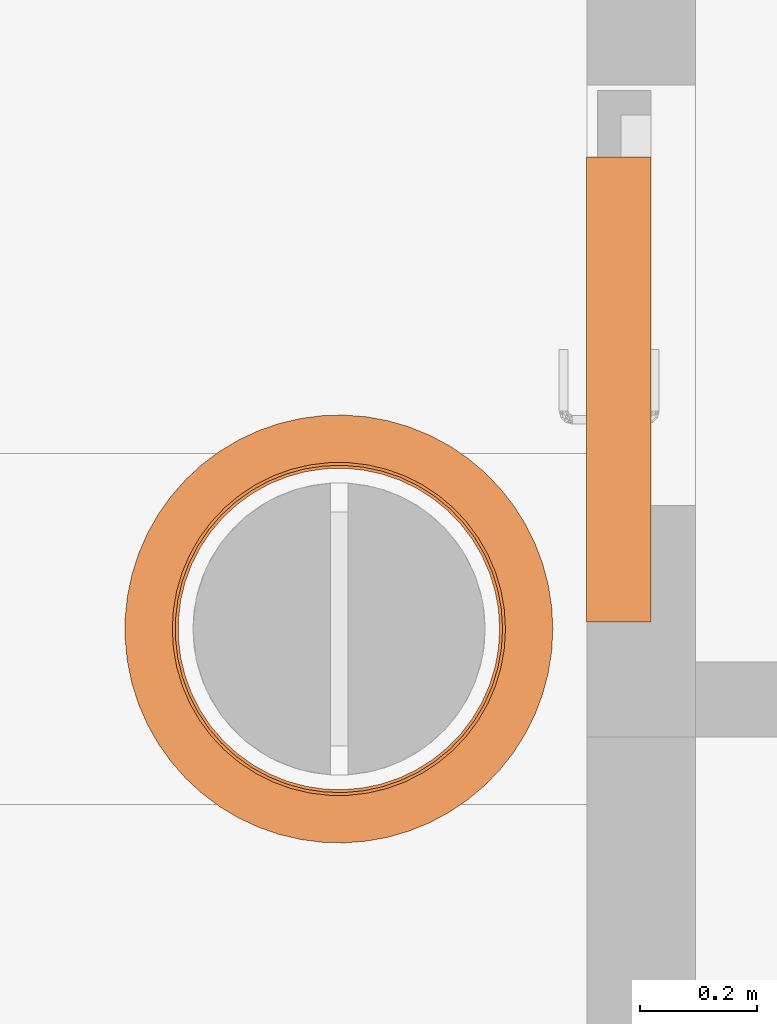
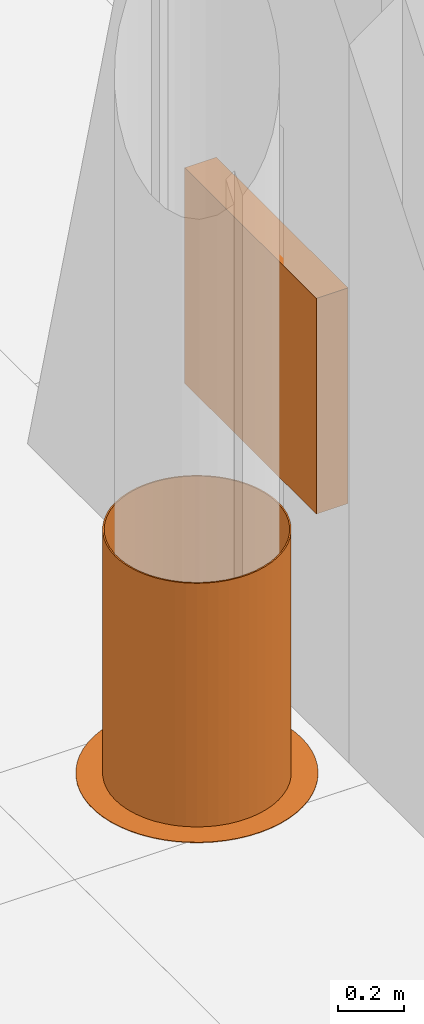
# One storey, part 9 of 10: 2 proxies.
"""IFC2X3 building model written with IfcOpenShell, lengths in millimetres."""

from ifc_helpers import new_model, entity, si_unit, converted_unit, derived_unit, direction, frame, frame_2d, origin, origin_with_axes, origin_2d_with_axis, place, context, subcontext, project, spatial, rectangle, hollow_circle, extrude, source, transform, mapped, material, type_object, element, save


model = new_model("IFC2X3")

# Units and contexts
model_context = context("Model", 3, precision=0.01, world=origin(), true_north=direction((6.12303176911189e-17, 1.0)))
plan_context = context("Plan", 3, precision=1e-05, world=origin_with_axes())
body_context = subcontext(model_context, "Body", "Model", "MODEL_VIEW")
ifc_project = project(units=[converted_unit("PLANEANGLEUNIT", "DEGREE", entity("IfcPositiveLengthMeasure", 0.0174532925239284), si_unit("PLANEANGLEUNIT", "RADIAN"), dimensions=[0, 0, 0, 0, 0, 0, 0]), si_unit("AREAUNIT", "SQUARE_METRE"), si_unit("LENGTHUNIT", "METRE", prefix="MILLI"), si_unit("MASSUNIT", "GRAM", prefix="KILO"), si_unit("POWERUNIT", "WATT"), si_unit("PRESSUREUNIT", "PASCAL"), si_unit("FORCEUNIT", "NEWTON", prefix="KILO"), si_unit("ELECTRICVOLTAGEUNIT", "VOLT"), si_unit("ELECTRICCURRENTUNIT", "AMPERE"), si_unit("THERMODYNAMICTEMPERATUREUNIT", "DEGREE_CELSIUS"), si_unit("TIMEUNIT", "SECOND"), si_unit("VOLUMEUNIT", "CUBIC_METRE"), derived_unit("LINEARVELOCITYUNIT", [(si_unit("LENGTHUNIT", "METRE"), 1), (si_unit("TIMEUNIT", "SECOND"), -1)]), derived_unit("VOLUMETRICFLOWRATEUNIT", [(si_unit("VOLUMEUNIT", "CUBIC_METRE"), 1), (si_unit("TIMEUNIT", "SECOND"), -1)]), derived_unit("THERMALTRANSMITTANCEUNIT", [(si_unit("POWERUNIT", "WATT"), 1), (si_unit("THERMODYNAMICTEMPERATUREUNIT", "KELVIN"), -1), (si_unit("AREAUNIT", "SQUARE_METRE"), -1)]), derived_unit("SOUNDPRESSUREUNIT", [(si_unit("PRESSUREUNIT", "PASCAL"), 1)])], contexts=[model_context, plan_context])

# Site, building, storey
site_placement = place(None, frame((2314154.5009392, 1029894.10887124, 0.0), z_axis=(0.0, 0.0, 1.0), x_axis=(1.0, 0.0, 0.0)))
site = spatial("IfcSite", under=ifc_project, at=site_placement, Name="Default", CompositionType="ELEMENT")
building_placement = place(site_placement, origin_with_axes())
building = spatial("IfcBuilding", under=site, at=building_placement, CompositionType="ELEMENT")
storey_placement = place(building_placement, frame((0.0, 0.0, 9320.0), z_axis=(0.0, 0.0, 1.0), x_axis=(1.0, 0.0, 0.0)))
storey = spatial("IfcBuildingStorey", under=building, at=storey_placement, Name="H01 Hovedetasje", CompositionType="ELEMENT", Elevation=9320.0)

# Proxies
ifc_material_1 = material(Name="<Unnamed>")
building_element_proxy_type_1 = type_object("IfcBuildingElementProxyType", Name="Værnes_Søylebeskyttelse_E1_rustfritt stål:Værnes_Søylebeskyttelse_E1_rustfritt stål", PredefinedType="NOTDEFINED", material=ifc_material_1)
shared_shape_1 = source(origin(), body_context, "Body", "SweptSolid", [
    extrude(hollow_circle(Radius=366.0, WallThickness=91.0000000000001, at=frame_2d((7.2779192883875e-16, -5.91289314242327e-13), x_axis=(1.0, 0.0))), origin(), (0.0, 0.0, 1.0), 2.0),
    extrude(hollow_circle(Radius=285.0, WallThickness=5.0, at=frame_2d((-6.34492458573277e-15, -4.60430203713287e-13), x_axis=(1.0, 0.0))), origin(), (0.0, 0.0, 1.0), 900.0),
])
proxy_1_placement = place(storey_placement, frame((101360.017375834, -39949.2076563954, 0.0), z_axis=(0.0, 0.0, 1.0), x_axis=(1.0, 0.0, 0.0)))
element("IfcBuildingElementProxy", 1, at=proxy_1_placement, inside=storey, type_object=building_element_proxy_type_1, material=ifc_material_1, Name="Værnes_Søylebeskyttelse_E1_rustfritt stål:Værnes_Søylebeskyttelse_E1_rustfritt stål", ObjectType="Værnes_Søylebeskyttelse_E1_rustfritt stål:Værnes_Søylebeskyttelse_E1_rustfritt stål", context=body_context, shape_type="MappedRepresentation", body=[
    mapped(shared_shape_1, transform((0.0, 0.0, 0.0), scale=1.0)),
])
ifc_material_2 = material(Name="Værnes Fire hose")
building_element_proxy_type_2 = type_object("IfcBuildingElementProxyType", Name="Værnes_Brannslange - integrert:3/110", PredefinedType="NOTDEFINED", material=ifc_material_2)
shared_shape_2 = source(origin(), body_context, "Body", "SweptSolid", [
    extrude(rectangle(XDim=794.999999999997, YDim=110.999999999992, at=origin_2d_with_axis()), frame((125.0, 38.5000000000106, 800.0), z_axis=(0.0, 0.0, 1.0), x_axis=(-1.0, 0.0, 0.0)), (0.0, 0.0, 1.0), 795.000000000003),
])
proxy_2_placement = place(storey_placement, frame((101877.336509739, -39664.5914111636, 0.0), z_axis=(0.0, 0.0, 1.0), x_axis=(0.0, 1.0, 0.0)))
element("IfcBuildingElementProxy", 2, at=proxy_2_placement, inside=storey, type_object=building_element_proxy_type_2, material=ifc_material_2, Name="Værnes_Brannslange - integrert:3/110", ObjectType="Værnes_Brannslange - integrert:3/110", context=body_context, shape_type="MappedRepresentation", body=[
    mapped(shared_shape_2, transform((0.0, 0.0, 0.0), scale=1.0)),
])

save(model, "model.ifc")
